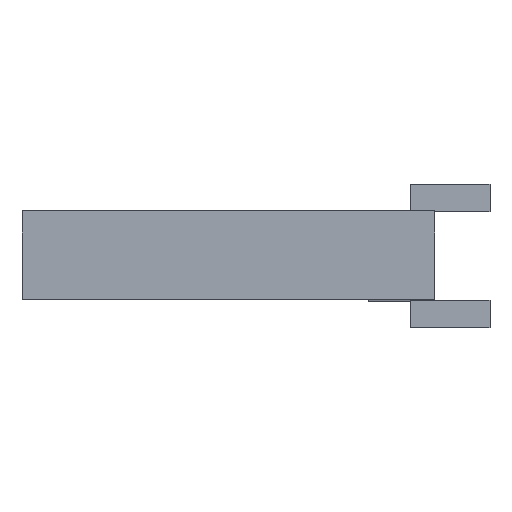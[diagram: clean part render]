
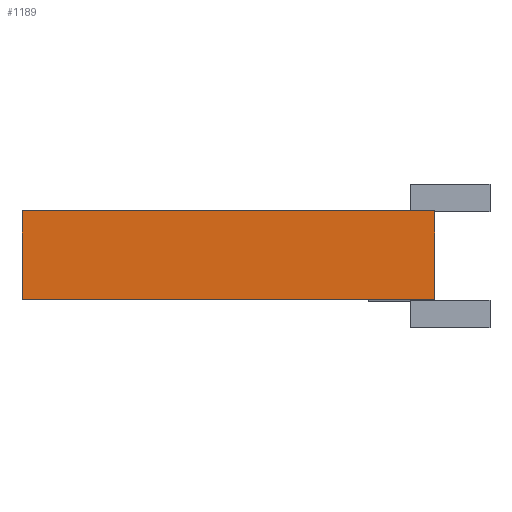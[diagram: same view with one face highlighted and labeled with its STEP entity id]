
A CAD part, top view. The second image highlights one B-rep face of the part: STEP entity #1189.
In plain terms, the highlighted planar face has unit normal (0, 0, 1).
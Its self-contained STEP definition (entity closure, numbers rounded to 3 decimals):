
#66 = PLANE('',#67);
#67 = AXIS2_PLACEMENT_3D('',#68,#69,#70);
#68 = CARTESIAN_POINT('',(0.5,26.2,-180.2));
#69 = DIRECTION('',(0.,1.,0.));
#70 = DIRECTION('',(0.,0.,1.));
#122 = PLANE('',#123);
#123 = AXIS2_PLACEMENT_3D('',#124,#125,#126);
#124 = CARTESIAN_POINT('',(0.5,42.2,-180.2));
#125 = DIRECTION('',(0.,1.,0.));
#126 = DIRECTION('',(0.,0.,1.));
#181 = PLANE('',#182);
#182 = AXIS2_PLACEMENT_3D('',#183,#184,#185);
#183 = CARTESIAN_POINT('',(12.5,26.2,-180.2));
#184 = DIRECTION('',(1.,0.,0.));
#185 = DIRECTION('',(0.,0.,1.));
#407 = VERTEX_POINT('',#408);
#408 = CARTESIAN_POINT('',(-62.364,26.2,
    21.675));
#422 = PLANE('',#423);
#423 = AXIS2_PLACEMENT_3D('',#424,#425,#426);
#424 = CARTESIAN_POINT('',(-62.364,26.2,
    17.675));
#425 = DIRECTION('',(1.,0.,0.));
#426 = DIRECTION('',(0.,0.,1.));
#434 = EDGE_CURVE('',#435,#407,#437,.T.);
#435 = VERTEX_POINT('',#436);
#436 = CARTESIAN_POINT('',(12.5,26.2,21.675));
#437 = SURFACE_CURVE('',#438,(#442,#449),.PCURVE_S1.);
#438 = LINE('',#439,#440);
#439 = CARTESIAN_POINT('',(12.5,26.2,21.675));
#440 = VECTOR('',#441,1.);
#441 = DIRECTION('',(-1.,0.,0.));
#442 = PCURVE('',#66,#443);
#443 = DEFINITIONAL_REPRESENTATION('',(#444),#448);
#444 = LINE('',#445,#446);
#445 = CARTESIAN_POINT('',(201.875,12.));
#446 = VECTOR('',#447,1.);
#447 = DIRECTION('',(0.,-1.));
#448 = ( GEOMETRIC_REPRESENTATION_CONTEXT(2) 
PARAMETRIC_REPRESENTATION_CONTEXT() REPRESENTATION_CONTEXT('2D SPACE',''
  ) );
#449 = PCURVE('',#450,#455);
#450 = PLANE('',#451);
#451 = AXIS2_PLACEMENT_3D('',#452,#453,#454);
#452 = CARTESIAN_POINT('',(0.5,26.2,21.675));
#453 = DIRECTION('',(0.,0.,1.));
#454 = DIRECTION('',(1.,0.,0.));
#455 = DEFINITIONAL_REPRESENTATION('',(#456),#460);
#456 = LINE('',#457,#458);
#457 = CARTESIAN_POINT('',(12.,0.));
#458 = VECTOR('',#459,1.);
#459 = DIRECTION('',(-1.,0.));
#460 = ( GEOMETRIC_REPRESENTATION_CONTEXT(2) 
PARAMETRIC_REPRESENTATION_CONTEXT() REPRESENTATION_CONTEXT('2D SPACE',''
  ) );
#622 = VERTEX_POINT('',#623);
#623 = CARTESIAN_POINT('',(12.5,42.2,21.675));
#806 = VERTEX_POINT('',#807);
#807 = CARTESIAN_POINT('',(-62.364,42.2,
    21.675));
#828 = EDGE_CURVE('',#806,#622,#829,.T.);
#829 = SURFACE_CURVE('',#830,(#834,#841),.PCURVE_S1.);
#830 = LINE('',#831,#832);
#831 = CARTESIAN_POINT('',(-62.364,42.2,
    21.675));
#832 = VECTOR('',#833,1.);
#833 = DIRECTION('',(1.,0.,0.));
#834 = PCURVE('',#122,#835);
#835 = DEFINITIONAL_REPRESENTATION('',(#836),#840);
#836 = LINE('',#837,#838);
#837 = CARTESIAN_POINT('',(201.875,-62.864));
#838 = VECTOR('',#839,1.);
#839 = DIRECTION('',(0.,1.));
#840 = ( GEOMETRIC_REPRESENTATION_CONTEXT(2) 
PARAMETRIC_REPRESENTATION_CONTEXT() REPRESENTATION_CONTEXT('2D SPACE',''
  ) );
#841 = PCURVE('',#450,#842);
#842 = DEFINITIONAL_REPRESENTATION('',(#843),#847);
#843 = LINE('',#844,#845);
#844 = CARTESIAN_POINT('',(-62.864,16.));
#845 = VECTOR('',#846,1.);
#846 = DIRECTION('',(1.,0.));
#847 = ( GEOMETRIC_REPRESENTATION_CONTEXT(2) 
PARAMETRIC_REPRESENTATION_CONTEXT() REPRESENTATION_CONTEXT('2D SPACE',''
  ) );
#882 = EDGE_CURVE('',#435,#622,#883,.T.);
#883 = SURFACE_CURVE('',#884,(#888,#895),.PCURVE_S1.);
#884 = LINE('',#885,#886);
#885 = CARTESIAN_POINT('',(12.5,26.2,21.675));
#886 = VECTOR('',#887,1.);
#887 = DIRECTION('',(0.,1.,0.));
#888 = PCURVE('',#181,#889);
#889 = DEFINITIONAL_REPRESENTATION('',(#890),#894);
#890 = LINE('',#891,#892);
#891 = CARTESIAN_POINT('',(201.875,0.));
#892 = VECTOR('',#893,1.);
#893 = DIRECTION('',(0.,-1.));
#894 = ( GEOMETRIC_REPRESENTATION_CONTEXT(2) 
PARAMETRIC_REPRESENTATION_CONTEXT() REPRESENTATION_CONTEXT('2D SPACE',''
  ) );
#895 = PCURVE('',#450,#896);
#896 = DEFINITIONAL_REPRESENTATION('',(#897),#901);
#897 = LINE('',#898,#899);
#898 = CARTESIAN_POINT('',(12.,0.));
#899 = VECTOR('',#900,1.);
#900 = DIRECTION('',(0.,1.));
#901 = ( GEOMETRIC_REPRESENTATION_CONTEXT(2) 
PARAMETRIC_REPRESENTATION_CONTEXT() REPRESENTATION_CONTEXT('2D SPACE',''
  ) );
#1189 = ADVANCED_FACE('',(#1190),#450,.T.);
#1190 = FACE_BOUND('',#1191,.T.);
#1191 = EDGE_LOOP('',(#1192,#1193,#1214,#1215));
#1192 = ORIENTED_EDGE('',*,*,#828,.F.);
#1193 = ORIENTED_EDGE('',*,*,#1194,.F.);
#1194 = EDGE_CURVE('',#407,#806,#1195,.T.);
#1195 = SURFACE_CURVE('',#1196,(#1200,#1207),.PCURVE_S1.);
#1196 = LINE('',#1197,#1198);
#1197 = CARTESIAN_POINT('',(-62.364,26.2,
    21.675));
#1198 = VECTOR('',#1199,1.);
#1199 = DIRECTION('',(0.,1.,0.));
#1200 = PCURVE('',#450,#1201);
#1201 = DEFINITIONAL_REPRESENTATION('',(#1202),#1206);
#1202 = LINE('',#1203,#1204);
#1203 = CARTESIAN_POINT('',(-62.864,0.));
#1204 = VECTOR('',#1205,1.);
#1205 = DIRECTION('',(0.,1.));
#1206 = ( GEOMETRIC_REPRESENTATION_CONTEXT(2) 
PARAMETRIC_REPRESENTATION_CONTEXT() REPRESENTATION_CONTEXT('2D SPACE',''
  ) );
#1207 = PCURVE('',#422,#1208);
#1208 = DEFINITIONAL_REPRESENTATION('',(#1209),#1213);
#1209 = LINE('',#1210,#1211);
#1210 = CARTESIAN_POINT('',(4.,0.));
#1211 = VECTOR('',#1212,1.);
#1212 = DIRECTION('',(0.,-1.));
#1213 = ( GEOMETRIC_REPRESENTATION_CONTEXT(2) 
PARAMETRIC_REPRESENTATION_CONTEXT() REPRESENTATION_CONTEXT('2D SPACE',''
  ) );
#1214 = ORIENTED_EDGE('',*,*,#434,.F.);
#1215 = ORIENTED_EDGE('',*,*,#882,.T.);
